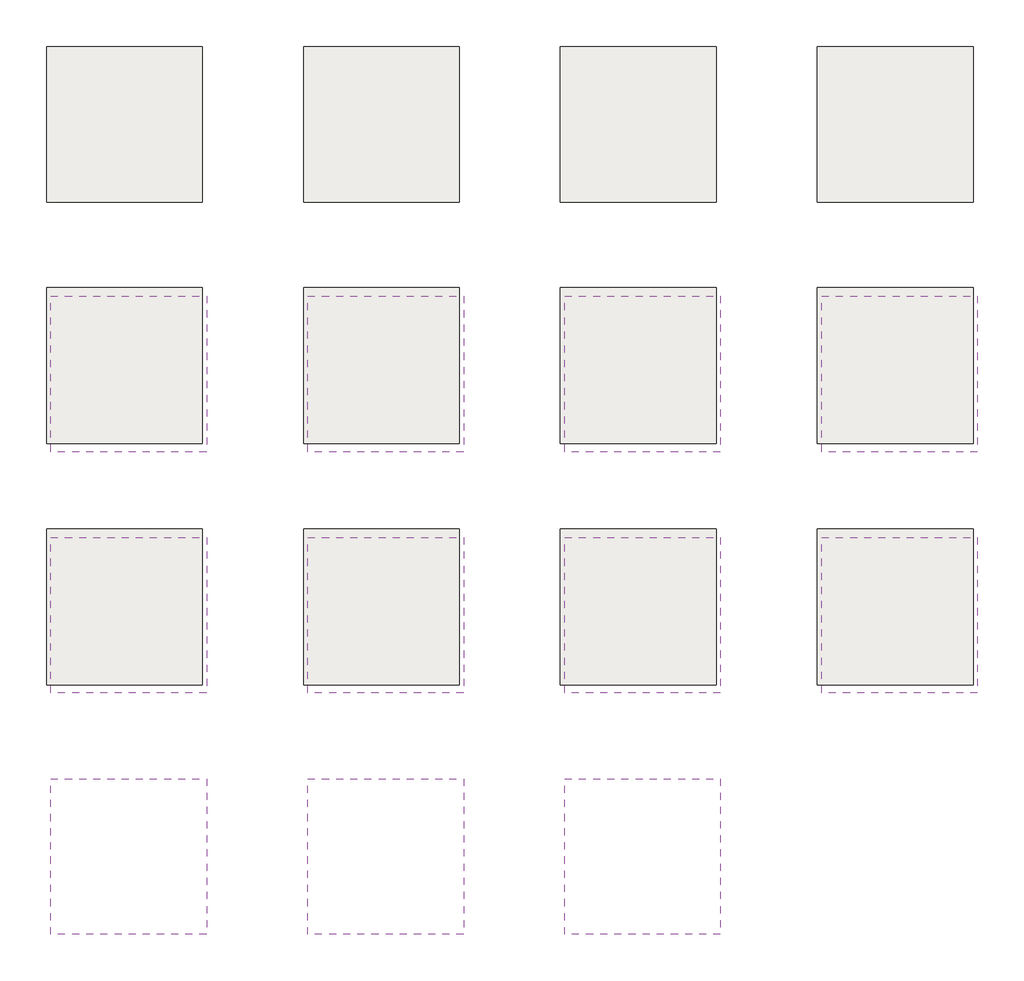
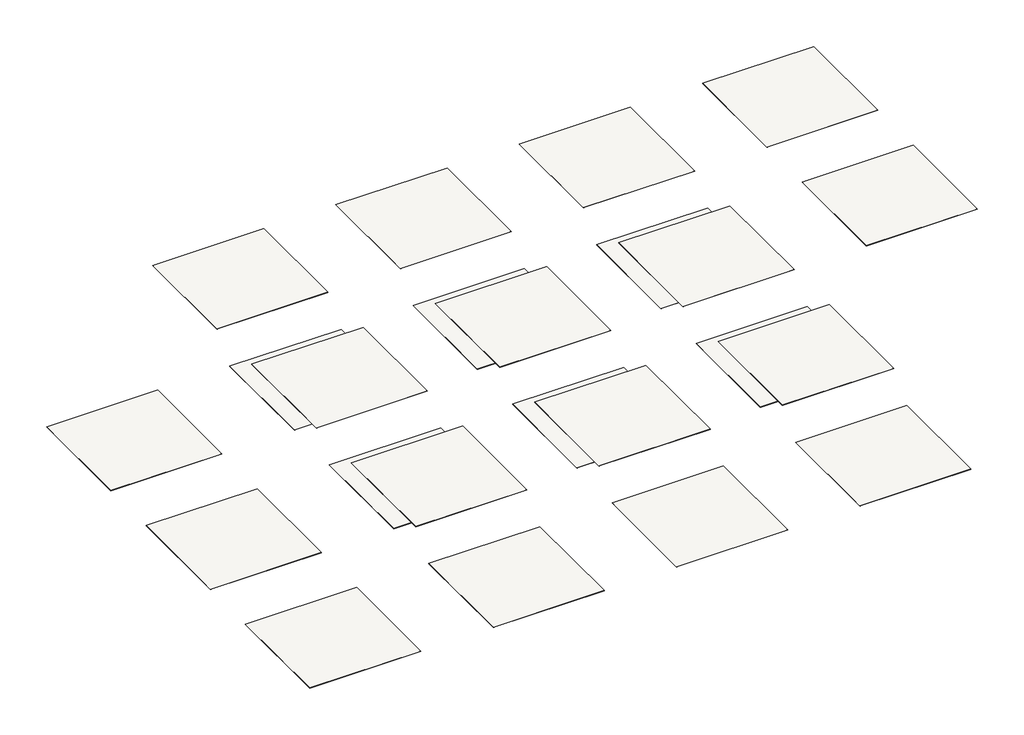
# One storey: 23 slabs.
"""IFC4 building model written with IfcOpenShell, lengths in millimetres."""

from ifc_helpers import new_model, si_unit, frame, origin, place, context, project, spatial, polyline, outline, extrude, element, save

model = new_model("IFC4")

# Units and contexts
model_context = context("Model", 3, world=origin())
ifc_project = project(units=[si_unit("LENGTHUNIT", "METRE", prefix="MILLI")], contexts=[model_context])

# Site, building, storey
site = spatial("IfcSite", under=ifc_project)
building = spatial("IfcBuilding", under=site)
storey = spatial("IfcBuildingStorey", under=building, Name="Tarkett Brasil - Ambienta Make It 01", Elevation=0.0)

# Slabs
placement = place(None, origin())
element("IfcSlab", 1, ObjectType="Tarkett Brasil - Vinyl - Ambienta Series - Açai 24176621", at=placement, inside=storey, context=model_context, shape_type="SweptSolid", body=[
    extrude(outline(polyline([(-2402.441548, 2804.6365704), (-2402.441548, 804.6365704), (-4402.441548, 804.6365704), (-4402.441548, 2804.6365704), (-2402.441548, 2804.6365704)])), frame((0.0, 0.0, -3.0), z_axis=(0.0, 0.0, 1.0), x_axis=(1.0, 0.0, 0.0)), (0.0, 0.0, 1.0), 3.0),
])
element("IfcSlab", 2, ObjectType="Tarkett Brasil - Vinyl - Ambienta Series - AlgodĂo 24176626", at=placement, inside=storey, context=model_context, shape_type="SweptSolid", body=[
    extrude(outline(polyline([(897.558452, 2804.6365704), (897.558452, 804.6365704), (-1102.441548, 804.6365704), (-1102.441548, 2804.6365704), (897.558452, 2804.6365704)])), frame((0.0, 0.0, -3.0), z_axis=(0.0, 0.0, 1.0), x_axis=(1.0, 0.0, 0.0)), (0.0, 0.0, 1.0), 3.0),
])
element("IfcSlab", 3, ObjectType="Tarkett Brasil - Vinyl - Ambienta Series - Aveia 24176655", at=placement, inside=storey, context=model_context, shape_type="SweptSolid", body=[
    extrude(outline(polyline([(4197.558452, 2804.6365704), (4197.558452, 804.6365704), (2197.558452, 804.6365704), (2197.558452, 2804.6365704), (4197.558452, 2804.6365704)])), frame((0.0, 0.0, -3.0), z_axis=(0.0, 0.0, 1.0), x_axis=(1.0, 0.0, 0.0)), (0.0, 0.0, 1.0), 3.0),
])
element("IfcSlab", 4, ObjectType="Tarkett Brasil - Vinyl - Ambienta Series - Betula 24176606", at=placement, inside=storey, context=model_context, shape_type="SweptSolid", body=[
    extrude(outline(polyline([(7497.558452, 2804.6365704), (7497.558452, 804.6365704), (5497.558452, 804.6365704), (5497.558452, 2804.6365704), (7497.558452, 2804.6365704)])), frame((0.0, 0.0, -3.0), z_axis=(0.0, 0.0, 1.0), x_axis=(1.0, 0.0, 0.0)), (0.0, 0.0, 1.0), 3.0),
])
element("IfcSlab", 5, ObjectType="Tarkett Brasil - Vinyl - Ambienta Series - Cabreuva 24176605", at=placement, inside=storey, context=model_context, shape_type="SweptSolid", body=[
    extrude(outline(polyline([(-2402.441548, -295.3634296), (-2402.441548, -2295.3634296), (-4402.441548, -2295.3634296), (-4402.441548, -295.3634296), (-2402.441548, -295.3634296)])), frame((0.0, 0.0, -3.0), z_axis=(0.0, 0.0, 1.0), x_axis=(1.0, 0.0, 0.0)), (0.0, 0.0, 1.0), 3.0),
])
element("IfcSlab", 6, ObjectType="Tarkett Brasil - Vinyl - Ambienta Series - Cambara 24176638", at=placement, inside=storey, context=model_context, shape_type="SweptSolid", body=[
    extrude(outline(polyline([(897.558452, -295.3634296), (897.558452, -2295.3634296), (-1102.441548, -2295.3634296), (-1102.441548, -295.3634296), (897.558452, -295.3634296)])), frame((0.0, 0.0, -3.0), z_axis=(0.0, 0.0, 1.0), x_axis=(1.0, 0.0, 0.0)), (0.0, 0.0, 1.0), 3.0),
])
element("IfcSlab", 7, ObjectType="Tarkett Brasil - Vinyl - Ambienta Series - Canela 24176604", at=placement, inside=storey, context=model_context, shape_type="SweptSolid", body=[
    extrude(outline(polyline([(4197.558452, -295.3634296), (4197.558452, -2295.3634296), (2197.558452, -2295.3634296), (2197.558452, -295.3634296), (4197.558452, -295.3634296)])), frame((0.0, 0.0, -3.0), z_axis=(0.0, 0.0, 1.0), x_axis=(1.0, 0.0, 0.0)), (0.0, 0.0, 1.0), 3.0),
])
element("IfcSlab", 8, ObjectType="Tarkett Brasil - Vinyl - Ambienta Series - Carambola 24176653", at=placement, inside=storey, context=model_context, shape_type="SweptSolid", body=[
    extrude(outline(polyline([(7497.558452, -295.3634296), (7497.558452, -2295.3634296), (5497.558452, -2295.3634296), (5497.558452, -295.3634296), (7497.558452, -295.3634296)])), frame((0.0, 0.0, -3.0), z_axis=(0.0, 0.0, 1.0), x_axis=(1.0, 0.0, 0.0)), (0.0, 0.0, 1.0), 3.0),
])
element("IfcSlab", 9, ObjectType="Tarkett Brasil - Vinyl - Ambienta Series - Carvalho Cinza 24176672", at=placement, inside=storey, context=model_context, shape_type="SweptSolid", body=[
    extrude(outline(polyline([(-2402.441548, -3395.3634296), (-2402.441548, -5395.3634296), (-4402.441548, -5395.3634296), (-4402.441548, -3395.3634296), (-2402.441548, -3395.3634296)])), frame((0.0, 0.0, -3.0), z_axis=(0.0, 0.0, 1.0), x_axis=(1.0, 0.0, 0.0)), (0.0, 0.0, 1.0), 3.0),
])
element("IfcSlab", 10, ObjectType="Tarkett Brasil - Vinyl - Ambienta Series - Castanha 24176643", at=placement, inside=storey, context=model_context, shape_type="SweptSolid", body=[
    extrude(outline(polyline([(897.558452, -3395.3634296), (897.558452, -5395.3634296), (-1102.441548, -5395.3634296), (-1102.441548, -3395.3634296), (897.558452, -3395.3634296)])), frame((0.0, 0.0, -3.0), z_axis=(0.0, 0.0, 1.0), x_axis=(1.0, 0.0, 0.0)), (0.0, 0.0, 1.0), 3.0),
])
element("IfcSlab", 11, ObjectType="Tarkett Brasil - Vinyl - Ambienta Series - Cedro 24176654", at=placement, inside=storey, context=model_context, shape_type="SweptSolid", body=[
    extrude(outline(polyline([(4197.558452, -3395.3634296), (4197.558452, -5395.3634296), (2197.558452, -5395.3634296), (2197.558452, -3395.3634296), (4197.558452, -3395.3634296)])), frame((0.0, 0.0, -3.0), z_axis=(0.0, 0.0, 1.0), x_axis=(1.0, 0.0, 0.0)), (0.0, 0.0, 1.0), 3.0),
])
element("IfcSlab", 12, ObjectType="Tarkett Brasil - Vinyl - Ambienta Series - Cinnamon 24176629", at=placement, inside=storey, context=model_context, shape_type="SweptSolid", body=[
    extrude(outline(polyline([(7497.558452, -3395.3634296), (7497.558452, -5395.3634296), (5497.558452, -5395.3634296), (5497.558452, -3395.3634296), (7497.558452, -3395.3634296)])), frame((0.0, 0.0, -3.0), z_axis=(0.0, 0.0, 1.0), x_axis=(1.0, 0.0, 0.0)), (0.0, 0.0, 1.0), 3.0),
])
element("IfcSlab", 13, ObjectType="Tarkett Brasil - Vinyl - Ambienta Series - Faia 24176676", at=placement, inside=storey, context=model_context, shape_type="SweptSolid", body=[
    extrude(outline(polyline([(-2347.7415869, -403.5887266), (-2347.7415869, -2403.5887266), (-4347.7415869, -2403.5887266), (-4347.7415869, -403.5887266), (-2347.7415869, -403.5887266)])), frame((0.0, 0.0, 4997.0), z_axis=(0.0, 0.0, 1.0), x_axis=(1.0, 0.0, 0.0)), (0.0, 0.0, 1.0), 3.0),
])
element("IfcSlab", 14, ObjectType="Tarkett Brasil - Vinyl - Ambienta Series - Gergelim 24176607", at=placement, inside=storey, context=model_context, shape_type="SweptSolid", body=[
    extrude(outline(polyline([(952.2584131, -403.5887266), (952.2584131, -2403.5887266), (-1047.7415869, -2403.5887266), (-1047.7415869, -403.5887266), (952.2584131, -403.5887266)])), frame((0.0, 0.0, 4997.0), z_axis=(0.0, 0.0, 1.0), x_axis=(1.0, 0.0, 0.0)), (0.0, 0.0, 1.0), 3.0),
])
element("IfcSlab", 15, ObjectType="Tarkett Brasil - Vinyl - Ambienta Series - Itauba 24176669", at=placement, inside=storey, context=model_context, shape_type="SweptSolid", body=[
    extrude(outline(polyline([(4252.2584131, -403.5887266), (4252.2584131, -2403.5887266), (2252.2584131, -2403.5887266), (2252.2584131, -403.5887266), (4252.2584131, -403.5887266)])), frame((0.0, 0.0, 4997.0), z_axis=(0.0, 0.0, 1.0), x_axis=(1.0, 0.0, 0.0)), (0.0, 0.0, 1.0), 3.0),
])
element("IfcSlab", 16, ObjectType="Tarkett Brasil - Vinyl - Ambienta Series - Jabuticaba 24176633", at=placement, inside=storey, context=model_context, shape_type="SweptSolid", body=[
    extrude(outline(polyline([(7552.2584131, -403.5887266), (7552.2584131, -2403.5887266), (5552.2584131, -2403.5887266), (5552.2584131, -403.5887266), (7552.2584131, -403.5887266)])), frame((0.0, 0.0, 4997.0), z_axis=(0.0, 0.0, 1.0), x_axis=(1.0, 0.0, 0.0)), (0.0, 0.0, 1.0), 3.0),
])
element("IfcSlab", 17, ObjectType="Tarkett Brasil - Vinyl - Ambienta Series - Jatai 24176639", at=placement, inside=storey, context=model_context, shape_type="SweptSolid", body=[
    extrude(outline(polyline([(-2347.7415869, -3503.5887266), (-2347.7415869, -5503.5887266), (-4347.7415869, -5503.5887266), (-4347.7415869, -3503.5887266), (-2347.7415869, -3503.5887266)])), frame((0.0, 0.0, 4997.0), z_axis=(0.0, 0.0, 1.0), x_axis=(1.0, 0.0, 0.0)), (0.0, 0.0, 1.0), 3.0),
])
element("IfcSlab", 18, ObjectType="Tarkett Brasil - Vinyl - Ambienta Series - Jequitiba 24176661", at=placement, inside=storey, context=model_context, shape_type="SweptSolid", body=[
    extrude(outline(polyline([(952.2584131, -3503.5887266), (952.2584131, -5503.5887266), (-1047.7415869, -5503.5887266), (-1047.7415869, -3503.5887266), (952.2584131, -3503.5887266)])), frame((0.0, 0.0, 4997.0), z_axis=(0.0, 0.0, 1.0), x_axis=(1.0, 0.0, 0.0)), (0.0, 0.0, 1.0), 3.0),
])
element("IfcSlab", 19, ObjectType="Tarkett Brasil - Vinyl - Ambienta Series - Sapucaia 24176658", at=placement, inside=storey, context=model_context, shape_type="SweptSolid", body=[
    extrude(outline(polyline([(4252.2584131, -3503.5887266), (4252.2584131, -5503.5887266), (2252.2584131, -5503.5887266), (2252.2584131, -3503.5887266), (4252.2584131, -3503.5887266)])), frame((0.0, 0.0, 4997.0), z_axis=(0.0, 0.0, 1.0), x_axis=(1.0, 0.0, 0.0)), (0.0, 0.0, 1.0), 3.0),
])
element("IfcSlab", 20, ObjectType="Tarkett Brasil - Vinyl - Ambienta Series - Sisal 24176632", at=placement, inside=storey, context=model_context, shape_type="SweptSolid", body=[
    extrude(outline(polyline([(7552.2584131, -3503.5887266), (7552.2584131, -5503.5887266), (5552.2584131, -5503.5887266), (5552.2584131, -3503.5887266), (7552.2584131, -3503.5887266)])), frame((0.0, 0.0, 4997.0), z_axis=(0.0, 0.0, 1.0), x_axis=(1.0, 0.0, 0.0)), (0.0, 0.0, 1.0), 3.0),
])
element("IfcSlab", 21, ObjectType="Tarkett Brasil - Vinyl - Ambienta Series - Tabaco 24176634", at=placement, inside=storey, context=model_context, shape_type="SweptSolid", body=[
    extrude(outline(polyline([(-2347.7415869, -6603.5887266), (-2347.7415869, -8603.5887266), (-4347.7415869, -8603.5887266), (-4347.7415869, -6603.5887266), (-2347.7415869, -6603.5887266)])), frame((0.0, 0.0, 4997.0), z_axis=(0.0, 0.0, 1.0), x_axis=(1.0, 0.0, 0.0)), (0.0, 0.0, 1.0), 3.0),
])
element("IfcSlab", 22, ObjectType="Tarkett Brasil - Vinyl - Ambienta Series - Timborana 24176663", at=placement, inside=storey, context=model_context, shape_type="SweptSolid", body=[
    extrude(outline(polyline([(952.2584131, -6603.5887266), (952.2584131, -8603.5887266), (-1047.7415869, -8603.5887266), (-1047.7415869, -6603.5887266), (952.2584131, -6603.5887266)])), frame((0.0, 0.0, 4997.0), z_axis=(0.0, 0.0, 1.0), x_axis=(1.0, 0.0, 0.0)), (0.0, 0.0, 1.0), 3.0),
])
element("IfcSlab", 23, ObjectType="Tarkett Brasil - Vinyl - Ambienta Series - Tuia 24176675", at=placement, inside=storey, context=model_context, shape_type="SweptSolid", body=[
    extrude(outline(polyline([(4252.2584131, -6603.5887266), (4252.2584131, -8603.5887266), (2252.2584131, -8603.5887266), (2252.2584131, -6603.5887266), (4252.2584131, -6603.5887266)])), frame((0.0, 0.0, 4997.0), z_axis=(0.0, 0.0, 1.0), x_axis=(1.0, 0.0, 0.0)), (0.0, 0.0, 1.0), 3.0),
])

save(model, "model.ifc")
